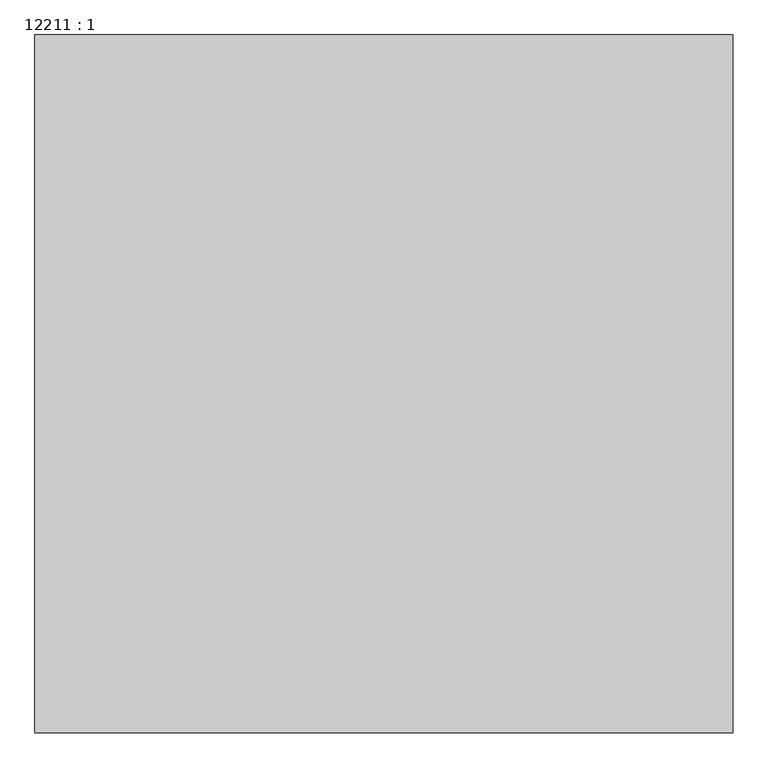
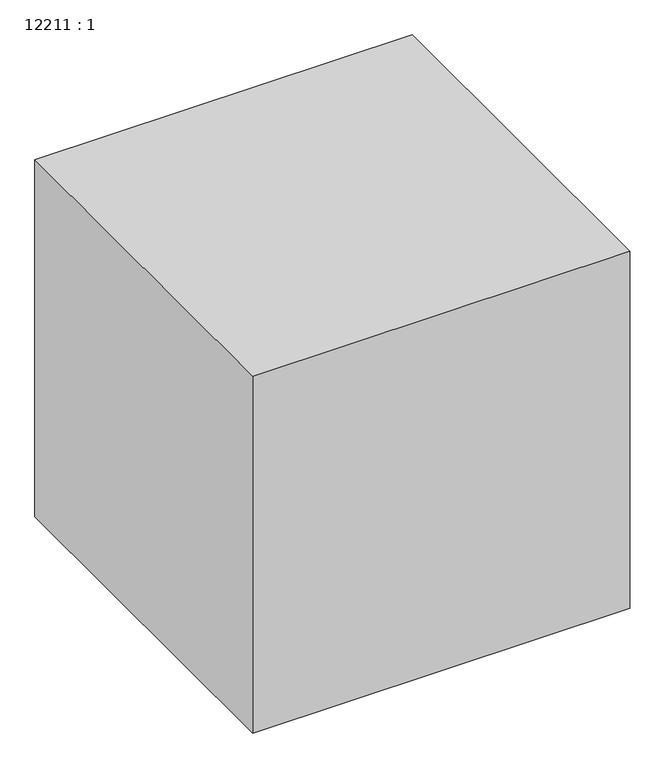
"""IFC4 building model written with IfcOpenShell, lengths in millimetres: proxy geometry, 12211 : 1."""

from ifc_helpers import new_model, si_unit, origin, origin_with_axes, place, context, project, spatial, polyline, outline, extrude, source, transform, mapped, element, save


def proxy_12211_1_91fec649(model_context):
    return source(origin(), model_context, "Body", "SweptSolid", [
        extrude(outline(polyline([(-14307.9756708, 21335.2294472), (-14307.9756708, 20335.2294472), (-15307.9756708, 20335.2294472), (-15307.9756708, 21335.2294472), (-14307.9756708, 21335.2294472)])), origin_with_axes(), (0.0, 0.0, 1.0), 1000.0),
    ])


if __name__ == "__main__":
    model = new_model("IFC4")
    model_context = context("Model", 3, world=origin())
    ifc_project = project(units=[si_unit("LENGTHUNIT", "METRE", prefix="MILLI")], contexts=[model_context])
    site = spatial("IfcSite", under=ifc_project)
    building = spatial("IfcBuilding", under=site)
    placement = place(None, origin())
    proxy_12211_1_shape = proxy_12211_1_91fec649(model_context)
    element("IfcBuildingElementProxy", 1, Name="12211 : 1", ObjectType="12211 : 1", at=placement, inside=building, context=model_context, shape_type="MappedRepresentation", body=[
        mapped(proxy_12211_1_shape, transform((0.0, 0.0, 0.0), x_axis=(1.0, 0.0, 0.0), y_axis=(0.0, 1.0, 0.0), z_axis=(0.0, 0.0, 1.0))),
    ])
    save(model, "model.ifc")
